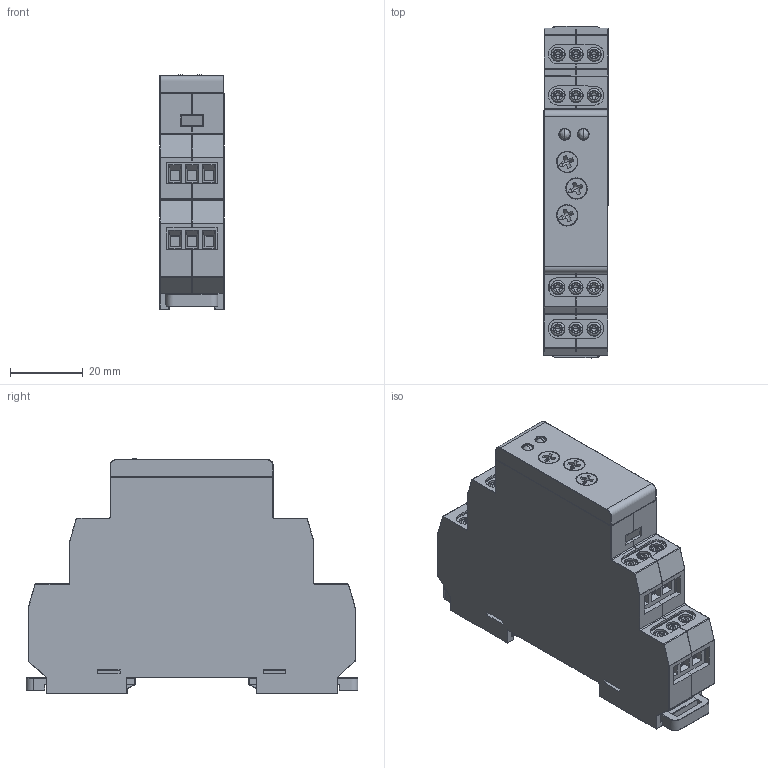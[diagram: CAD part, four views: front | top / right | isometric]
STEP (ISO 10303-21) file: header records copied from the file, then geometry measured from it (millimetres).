
FILE_DESCRIPTION(/* description */ (''),/* implementation_level */ '2;1');
FILE_NAME(/* name */ 'TE-8816U',/* time_stamp */ '2019-06-05T09:20:28+02:00',/* author */ (''),/* organization */ (''),/* preprocessor_version */ 'ST-DEVELOPER v15',/* originating_system */ '',/* authorisation */ '');
FILE_SCHEMA (('AUTOMOTIVE_DESIGN'));
Length unit declared in the file: millimetre
Products named in the file (1): Document
Bounding box: 17.65 x 91.27 x 64.57 mm (x, y, z)
Volume: 452 mm3; surface area: 36620.4 mm2
Topology: 8 solids, 52 shells, 1990 faces, 5128 edges, 3001 vertices
Faces by surface type: bspline 1005, plane 985
Entity records: 76995 total; most frequent: CARTESIAN_POINT 47343, ORIENTED_EDGE 9650, EDGE_CURVE 5064, VERTEX_POINT 2999, B_SPLINE_CURVE_WITH_KNOTS 2599, EDGE_LOOP 2053, ADVANCED_FACE 1990, FACE_OUTER_BOUND 1990
